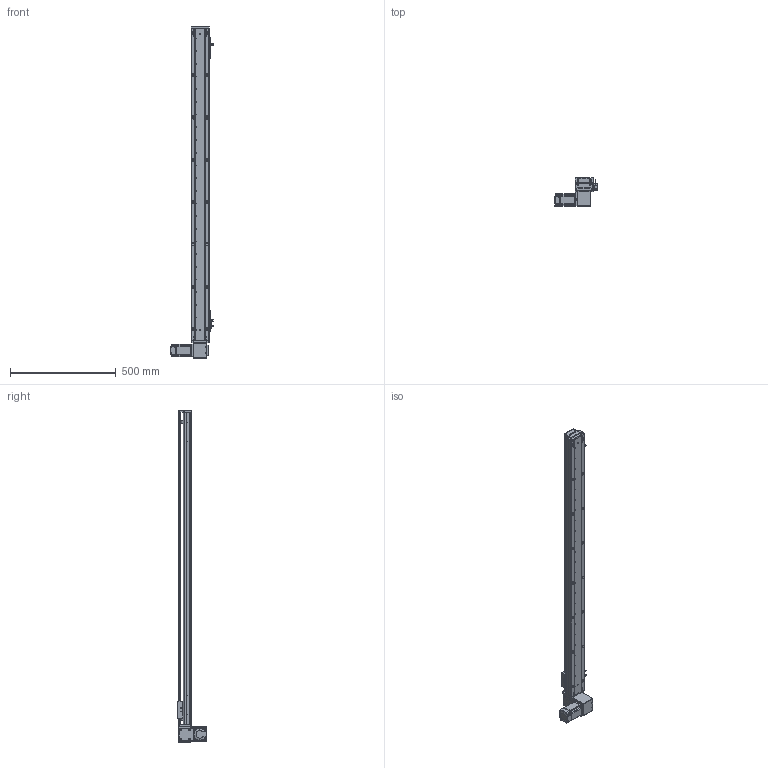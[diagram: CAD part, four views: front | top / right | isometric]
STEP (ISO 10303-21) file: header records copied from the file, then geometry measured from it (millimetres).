
FILE_DESCRIPTION (( 'STEP AP203' ), '1' );
FILE_NAME ('RY80-T-300-DL.SLDASM_1300.step', '2021-03-01T01:39:00', ( '盈信电脑' ), ( '东莞市道滘镇水果街19号' ), 'SwSTEP 2.0', 'SolidWorks 2012', '' );
FILE_SCHEMA (( 'CONFIG_CONTROL_DESIGN' ));
Length unit declared in the file: millimetre
Products named in the file (19): RY80-T-300-DL.SLDASM_1300; RY80-T-上下折同步轮盖板; RY80-T-M4蹟翐3; RY80-T肮祭謫狟殏俋欶; RY100-T粣創揤踡裔; RY80-T翋肮祭謫裔啣; 1; 滅袉蝶18-10; RY80-T萇儂假蚾啣; RY80-T肮祭湍揤輸2; RY80-T肮祭湍揤輸1; RY80-T-翋肮祭謫釱; 672嫖萇羲壽假蚾釱; RY80-T綴裔啣; RY80俋离覜茼え; 覜茼ん672; RY80-T-300-DL倰第奻裔啣_1300; RY80-T肮祭謫臏賑輸; RY80-T-300-DL倰第菁釱_1300
Assembly tree (24 placements, depth 2):
  RY80-T-300-DL.SLDASM_1300
    RY80-T-300-DL倰第菁釱_1300
    RY80-T肮祭謫臏賑輸
    RY80-T-300-DL倰第奻裔啣_1300
    RY80-T綴裔啣
    672嫖萇羲壽假蚾釱  x2
    覜茼ん672  x3
    RY80俋离覜茼え
    RY80-T-翋肮祭謫釱
    RY80-T肮祭湍揤輸1
    RY80-T肮祭湍揤輸2
    RY80-T萇儂假蚾啣
    RY80-T翋肮祭謫裔啣  x2
    滅袉蝶18-10  x2
    1
    RY80-T肮祭謫狟殏俋欶
    RY80-T-M4蹟翐3  x2
    RY80-T-上下折同步轮盖板
    RY100-T粣創揤踡裔
Bounding box: 198.7 x 134.5 x 1570 mm (x, y, z)
Volume: 2575826.4 mm3; surface area: 1096838.5 mm2
Topology: 24 solids, 24 shells, 2544 faces, 7025 edges, 4563 vertices
Faces by surface type: plane 1352, cylinder 987, cone 149, bspline 56
Entity records: 80329 total; most frequent: CARTESIAN_POINT 19587, ORIENTED_EDGE 12494, DIRECTION 11730, EDGE_CURVE 6247, VERTEX_POINT 4104, AXIS2_PLACEMENT_3D 3959, VECTOR 3812, LINE 3812
